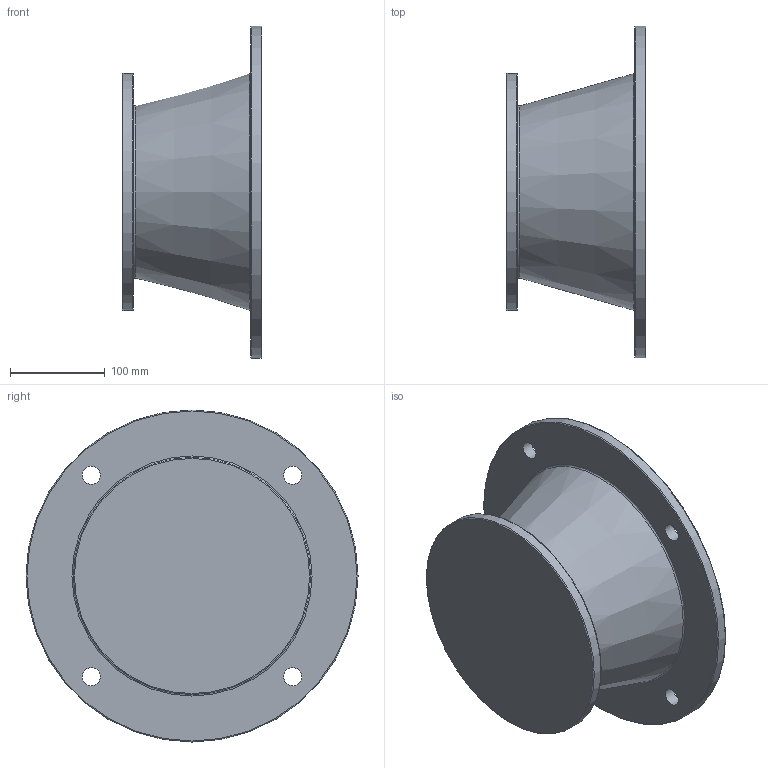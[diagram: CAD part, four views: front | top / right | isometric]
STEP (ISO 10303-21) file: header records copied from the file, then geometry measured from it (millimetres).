
FILE_DESCRIPTION((''),'2;1');
FILE_NAME('F:\PAWEŁ\ZLECENIA\2011 DualSystem\Przekładnie DK\001 Modele\DKAB80_\DK_80_STEP\160_B5_L147,5.stp','2012-08-20T12:01:13',('admin'),(''),'Autodesk Inventor 2009','Autodesk Inventor 2009','');
FILE_SCHEMA(('AUTOMOTIVE_DESIGN { 1 0 10303 214 1 1 1 1 }'));
Length unit declared in the file: millimetre
Products named in the file (1): 160_B5_L147,5
Bounding box: 147.5 x 350 x 350 mm (x, y, z)
Volume: 1932863.4 mm3; surface area: 430724.9 mm2
Topology: 1 solids, 1 shells, 30 faces, 58 edges, 36 vertices
Faces by surface type: plane 11, cylinder 6, bspline 6, torus 5, cone 2
Full cylindrical faces by diameter (mm): 68 x1, 237.527 x1, 250 x2, 350 x1
Entity records: 895 total; most frequent: CARTESIAN_POINT 281, DIRECTION 120, ORIENTED_EDGE 80, EDGE_LOOP 62, AXIS2_PLACEMENT_3D 55, EDGE_CURVE 40, VERTEX_POINT 36, FACE_BOUND 32
